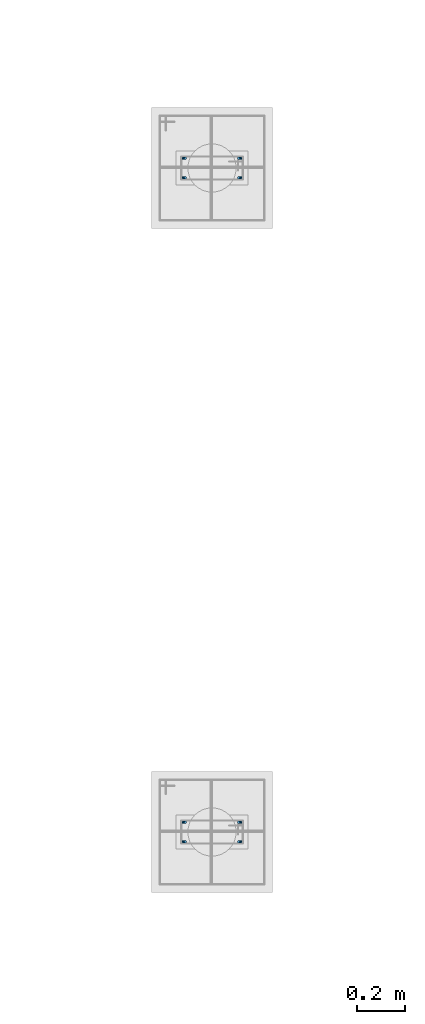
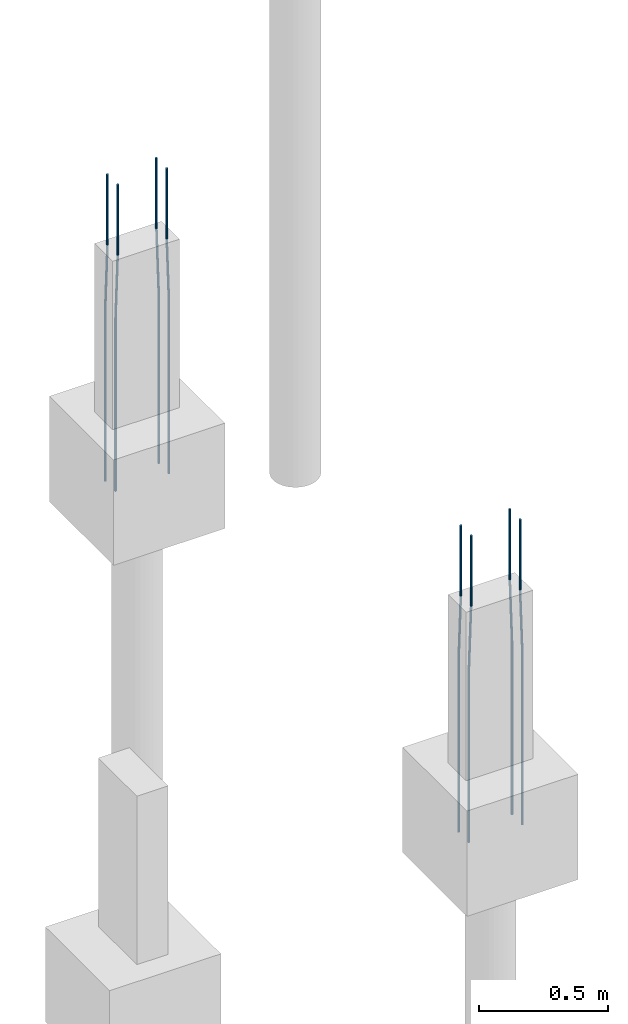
# One storey, part 46 of 119: 8 reinforcing bars.
"""IFC4 building model written with IfcOpenShell, lengths in centimetres."""

from ifc_helpers import new_model, entity, si_unit, derived_unit, frame, origin_with_axes, place, context, project, spatial, element, save


model = new_model("IFC4")

# Units and contexts
model_context = context("Model", 3, precision=1e-05, world=origin_with_axes(), identifier="Body")
ifc_project = project(units=[si_unit("LENGTHUNIT", "METRE", prefix="CENTI"), si_unit("VOLUMEUNIT", "CUBIC_METRE"), si_unit("AREAUNIT", "SQUARE_METRE"), si_unit("POWERUNIT", "WATT"), si_unit("LUMINOUSFLUXUNIT", "LUMEN"), si_unit("ELECTRICCURRENTUNIT", "AMPERE"), si_unit("PRESSUREUNIT", "PASCAL", prefix="KILO"), si_unit("MASSUNIT", "GRAM", prefix="KILO"), si_unit("PLANEANGLEUNIT", "RADIAN"), derived_unit("VOLUMETRICFLOWRATEUNIT", [(si_unit("LENGTHUNIT", "METRE"), 3), (si_unit("TIMEUNIT", "SECOND"), -1)])], contexts=[model_context])

# Site, building, storey
site_placement = place(None, frame((-4000.0, 0.0, 0.0), z_axis=(0.0, 0.0, 1.0), x_axis=(1.0, 0.0, 0.0)))
site = spatial("IfcSite", under=ifc_project, at=site_placement, Name="PADRÃO")
building_placement = place(site_placement, frame((0.0, 0.0, -14.0)))
building = spatial("IfcBuilding", under=site, at=building_placement, Name="CRECHE PRÉ-ESCOLA TIPO 2")
storey_placement = place(building_placement, origin_with_axes())
storey = spatial("IfcBuildingStorey", under=building, at=storey_placement, Name="FUNDAÇÃO", CompositionType="ELEMENT", Elevation=-14.0)

# Reinforcing bars
reinforcing_bar_1_placement = place(storey_placement, frame((673.5, 3476.49, 33.3573001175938), z_axis=(0.0, 0.0, 1.0), x_axis=(1.0, 0.0, 0.0)))
element("IfcReinforcingBar", 1, at=reinforcing_bar_1_placement, inside=storey, Name="P39 - Longitudinal", BarLength=0.0, CrossSectionArea=7.853981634e-05, NominalDiameter=1.0, PredefinedType="MAIN", context=model_context, shape_type="AdvancedSweptSolid", body=[
    entity("IfcSweptDiskSolid", entity("IfcCompositeCurve", [entity("IfcCompositeCurveSegment", "CONTINUOUS", True, entity("IfcPolyline", [entity("IfcCartesianPoint", [-0.5, 0.0, -145.357300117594]), entity("IfcCartesianPoint", [-0.5, 0.0, -63.3573001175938])])), entity("IfcCompositeCurveSegment", "CONTINUOUS", True, entity("IfcPolyline", [entity("IfcCartesianPoint", [-0.5, 0.0, -63.3573001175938]), entity("IfcCartesianPoint", [0.5, 0.0, -33.3573001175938])])), entity("IfcCompositeCurveSegment", "CONTINUOUS", True, entity("IfcPolyline", [entity("IfcCartesianPoint", [0.5, 0.0, -33.3573001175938]), entity("IfcCartesianPoint", [0.5, 0.0, 0.0])]))], False), 0.5),
])
for number, where, z_axis, x_axis, name in (
    (2, (696.5, 3476.49, 33.3573001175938), (0.0, 0.0, 1.0), (1.0, 0.0, 0.0), "P39 - Longitudinal"),
    (3, (696.5, 3468.49, 33.3573001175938), (0.0, 0.0, 1.0), (1.0, 0.0, 0.0), "P39 - Longitudinal"),
):
    element("IfcReinforcingBar", number, at=place(storey_placement, frame(where, z_axis=z_axis, x_axis=x_axis)), inside=storey, Name=name, BarLength=0.0, CrossSectionArea=7.853981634e-05, NominalDiameter=1.0, PredefinedType="MAIN", context=model_context, shape_type="AdvancedSweptSolid", body=[
        entity("IfcSweptDiskSolid", entity("IfcCompositeCurve", [entity("IfcCompositeCurveSegment", "CONTINUOUS", True, entity("IfcPolyline", [entity("IfcCartesianPoint", [0.5, 0.0, -145.357300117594]), entity("IfcCartesianPoint", [0.5, 0.0, -63.3573001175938])])), entity("IfcCompositeCurveSegment", "CONTINUOUS", True, entity("IfcPolyline", [entity("IfcCartesianPoint", [0.5, 0.0, -63.3573001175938]), entity("IfcCartesianPoint", [-0.5, 0.0, -33.3573001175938])])), entity("IfcCompositeCurveSegment", "CONTINUOUS", True, entity("IfcPolyline", [entity("IfcCartesianPoint", [-0.5, 0.0, -33.3573001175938]), entity("IfcCartesianPoint", [-0.5, 0.0, 0.0])]))], False), 0.5),
    ])
for number, where, z_axis, x_axis, name in (
    (4, (673.5, 3468.49, 33.3573001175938), (0.0, 0.0, 1.0), (1.0, 0.0, 0.0), "P39 - Longitudinal"),
    (5, (673.5, 3193.49, 33.3573001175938), (0.0, 0.0, 1.0), (1.0, 0.0, 0.0), "P49 - Longitudinal"),
):
    element("IfcReinforcingBar", number, at=place(storey_placement, frame(where, z_axis=z_axis, x_axis=x_axis)), inside=storey, Name=name, BarLength=0.0, CrossSectionArea=7.853981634e-05, NominalDiameter=1.0, PredefinedType="MAIN", context=model_context, shape_type="AdvancedSweptSolid", body=[
        entity("IfcSweptDiskSolid", entity("IfcCompositeCurve", [entity("IfcCompositeCurveSegment", "CONTINUOUS", True, entity("IfcPolyline", [entity("IfcCartesianPoint", [-0.5, 0.0, -145.357300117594]), entity("IfcCartesianPoint", [-0.5, 0.0, -63.3573001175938])])), entity("IfcCompositeCurveSegment", "CONTINUOUS", True, entity("IfcPolyline", [entity("IfcCartesianPoint", [-0.5, 0.0, -63.3573001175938]), entity("IfcCartesianPoint", [0.5, 0.0, -33.3573001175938])])), entity("IfcCompositeCurveSegment", "CONTINUOUS", True, entity("IfcPolyline", [entity("IfcCartesianPoint", [0.5, 0.0, -33.3573001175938]), entity("IfcCartesianPoint", [0.5, 0.0, 0.0])]))], False), 0.5),
    ])
reinforcing_bar_2_placement = place(storey_placement, frame((696.5, 3201.49, 33.3573001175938), z_axis=(0.0, 0.0, 1.0), x_axis=(1.0, 0.0, 0.0)))
element("IfcReinforcingBar", 6, at=reinforcing_bar_2_placement, inside=storey, Name="P49 - Longitudinal", BarLength=0.0, CrossSectionArea=7.853981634e-05, NominalDiameter=1.0, PredefinedType="MAIN", context=model_context, shape_type="AdvancedSweptSolid", body=[
    entity("IfcSweptDiskSolid", entity("IfcCompositeCurve", [entity("IfcCompositeCurveSegment", "CONTINUOUS", True, entity("IfcPolyline", [entity("IfcCartesianPoint", [0.5, 0.0, -145.357300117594]), entity("IfcCartesianPoint", [0.5, 0.0, -63.3573001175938])])), entity("IfcCompositeCurveSegment", "CONTINUOUS", True, entity("IfcPolyline", [entity("IfcCartesianPoint", [0.5, 0.0, -63.3573001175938]), entity("IfcCartesianPoint", [-0.5, 0.0, -33.3573001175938])])), entity("IfcCompositeCurveSegment", "CONTINUOUS", True, entity("IfcPolyline", [entity("IfcCartesianPoint", [-0.5, 0.0, -33.3573001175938]), entity("IfcCartesianPoint", [-0.5, 0.0, 0.0])]))], False), 0.5),
])
reinforcing_bar_3_placement = place(storey_placement, frame((673.5, 3201.49, 33.3573001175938), z_axis=(0.0, 0.0, 1.0), x_axis=(1.0, 0.0, 0.0)))
element("IfcReinforcingBar", 7, at=reinforcing_bar_3_placement, inside=storey, Name="P49 - Longitudinal", BarLength=0.0, CrossSectionArea=7.853981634e-05, NominalDiameter=1.0, PredefinedType="MAIN", context=model_context, shape_type="AdvancedSweptSolid", body=[
    entity("IfcSweptDiskSolid", entity("IfcCompositeCurve", [entity("IfcCompositeCurveSegment", "CONTINUOUS", True, entity("IfcPolyline", [entity("IfcCartesianPoint", [-0.5, 0.0, -145.357300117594]), entity("IfcCartesianPoint", [-0.5, 0.0, -63.3573001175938])])), entity("IfcCompositeCurveSegment", "CONTINUOUS", True, entity("IfcPolyline", [entity("IfcCartesianPoint", [-0.5, 0.0, -63.3573001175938]), entity("IfcCartesianPoint", [0.5, 0.0, -33.3573001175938])])), entity("IfcCompositeCurveSegment", "CONTINUOUS", True, entity("IfcPolyline", [entity("IfcCartesianPoint", [0.5, 0.0, -33.3573001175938]), entity("IfcCartesianPoint", [0.5, 0.0, 0.0])]))], False), 0.5),
])
reinforcing_bar_4_placement = place(storey_placement, frame((696.5, 3193.49, 33.3573001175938), z_axis=(0.0, 0.0, 1.0), x_axis=(1.0, 0.0, 0.0)))
element("IfcReinforcingBar", 8, at=reinforcing_bar_4_placement, inside=storey, Name="P49 - Longitudinal", BarLength=0.0, CrossSectionArea=7.853981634e-05, NominalDiameter=1.0, PredefinedType="MAIN", context=model_context, shape_type="AdvancedSweptSolid", body=[
    entity("IfcSweptDiskSolid", entity("IfcCompositeCurve", [entity("IfcCompositeCurveSegment", "CONTINUOUS", True, entity("IfcPolyline", [entity("IfcCartesianPoint", [0.5, 0.0, -145.357300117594]), entity("IfcCartesianPoint", [0.5, 0.0, -63.3573001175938])])), entity("IfcCompositeCurveSegment", "CONTINUOUS", True, entity("IfcPolyline", [entity("IfcCartesianPoint", [0.5, 0.0, -63.3573001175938]), entity("IfcCartesianPoint", [-0.5, 0.0, -33.3573001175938])])), entity("IfcCompositeCurveSegment", "CONTINUOUS", True, entity("IfcPolyline", [entity("IfcCartesianPoint", [-0.5, 0.0, -33.3573001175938]), entity("IfcCartesianPoint", [-0.5, 0.0, 0.0])]))], False), 0.5),
])

save(model, "model.ifc")
